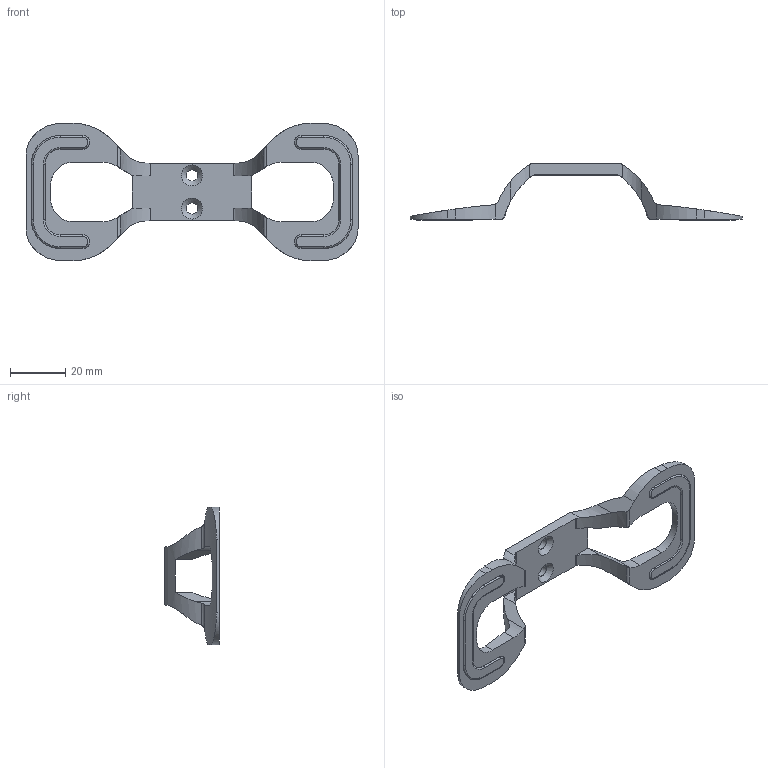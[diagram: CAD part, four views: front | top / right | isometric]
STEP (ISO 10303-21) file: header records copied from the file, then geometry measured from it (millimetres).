
FILE_DESCRIPTION(/* description */ (''),/* implementation_level */ '2;1');
FILE_NAME(/* name */ 'Bedrock foot v23.step',/* time_stamp */ '2022-11-28T12:47:18+02:00',/* author */ (''),/* organization */ (''),/* preprocessor_version */ 'ST-DEVELOPER v19.2',/* originating_system */ 'Autodesk Translation Framework v11.17.0.187',/* authorisation */ '');
FILE_SCHEMA (('AUTOMOTIVE_DESIGN { 1 0 10303 214 3 1 1 }'));
Length unit declared in the file: millimetre
Products named in the file (1): Bedrock foot
Bounding box: 120.35 x 20.3 x 50 mm (x, y, z)
Volume: 11272.5 mm3; surface area: 10196.7 mm2
Topology: 3 solids, 3 shells, 154 faces, 420 edges, 270 vertices
Faces by surface type: cylinder 72, plane 60, torus 12, bspline 8, cone 2
Full cylindrical faces by diameter (mm): 4.2 x2
Entity records: 5116 total; most frequent: CARTESIAN_POINT 1133, ORIENTED_EDGE 840, DIRECTION 836, EDGE_CURVE 420, AXIS2_PLACEMENT_3D 309, VERTEX_POINT 270, LINE 218, VECTOR 218
